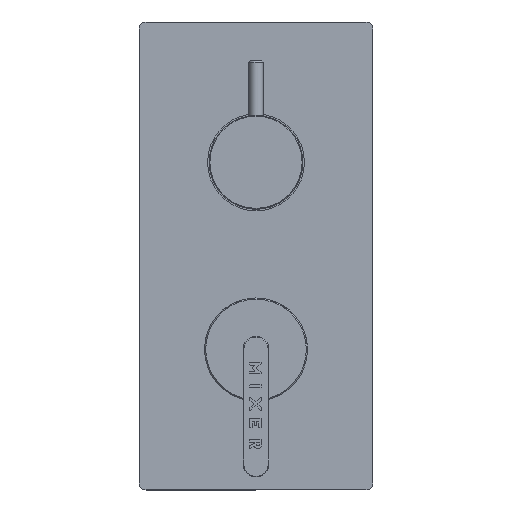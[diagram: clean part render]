
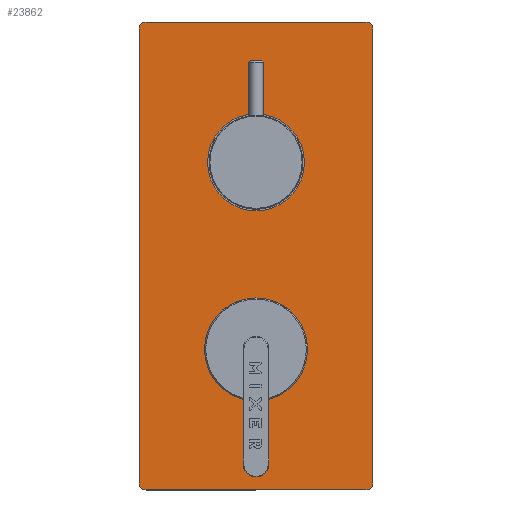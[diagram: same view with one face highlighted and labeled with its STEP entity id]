
A CAD part, top view. The second image highlights one B-rep face of the part: STEP entity #23862.
In plain terms, the highlighted planar face has unit normal (0, 0, 1).
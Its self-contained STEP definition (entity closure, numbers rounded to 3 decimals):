
#710 = ORIENTED_EDGE ( 'NONE', *, *, #996, .F. ) ;
#996 = EDGE_CURVE ( 'NONE', #26160, #25099, #26081, .T. ) ;
#1635 = AXIS2_PLACEMENT_3D ( 'NONE', #9597, #17341, #27597 ) ;
#1868 = ORIENTED_EDGE ( 'NONE', *, *, #24668, .T. ) ;
#2211 = DIRECTION ( 'NONE',  ( 1., 0., 0. ) ) ;
#2426 = CIRCLE ( 'NONE', #27200, 20.7 ) ;
#2579 = EDGE_CURVE ( 'NONE', #31843, #25653, #30731, .T. ) ;
#2898 = VECTOR ( 'NONE', #15499, 1000. ) ;
#2903 = CARTESIAN_POINT ( 'NONE',  ( 19.3, 0., 2. ) ) ;
#3195 = EDGE_CURVE ( 'NONE', #25099, #26160, #12964, .T. ) ;
#3305 = DIRECTION ( 'NONE',  ( 0., 0., 1. ) ) ;
#3683 = CIRCLE ( 'NONE', #21483, 20.7 ) ;
#4577 = DIRECTION ( 'NONE',  ( 0., -1., 0. ) ) ;
#4622 = LINE ( 'NONE', #15262, #17516 ) ;
#5070 = FACE_BOUND ( 'NONE', #32394, .T. ) ;
#5232 = EDGE_CURVE ( 'NONE', #25653, #23355, #14912, .T. ) ;
#5278 = DIRECTION ( 'NONE',  ( 0., 0., 1. ) ) ;
#5989 = ORIENTED_EDGE ( 'NONE', *, *, #7519, .F. ) ;
#6692 = EDGE_CURVE ( 'NONE', #13198, #18289, #8065, .T. ) ;
#7519 = EDGE_CURVE ( 'NONE', #31551, #14618, #2426, .T. ) ;
#8065 = LINE ( 'NONE', #18352, #2898 ) ;
#9003 = ORIENTED_EDGE ( 'NONE', *, *, #5232, .T. ) ;
#9486 = ORIENTED_EDGE ( 'NONE', *, *, #30402, .T. ) ;
#9527 = CARTESIAN_POINT ( 'NONE',  ( 100., -50., 2. ) ) ;
#9551 = DIRECTION ( 'NONE',  ( 0., 0., 1. ) ) ;
#9597 = CARTESIAN_POINT ( 'NONE',  ( -40., 0., 2. ) ) ;
#10041 = DIRECTION ( 'NONE',  ( 1., 0., 0. ) ) ;
#10162 = CARTESIAN_POINT ( 'NONE',  ( -97., 50., 2. ) ) ;
#10294 = DIRECTION ( 'NONE',  ( 0., 0., 1. ) ) ;
#10373 = CARTESIAN_POINT ( 'NONE',  ( -100., 47., 2. ) ) ;
#10660 = ORIENTED_EDGE ( 'NONE', *, *, #3195, .F. ) ;
#10675 = EDGE_LOOP ( 'NONE', ( #14611, #12482, #15917, #9486, #1868, #21677, #9003, #30055 ) ) ;
#10867 = CARTESIAN_POINT ( 'NONE',  ( 40., 0., 2. ) ) ;
#10910 = CARTESIAN_POINT ( 'NONE',  ( -100., -47., 2. ) ) ;
#10913 = CARTESIAN_POINT ( 'NONE',  ( 60.7, 0., 2. ) ) ;
#11102 = EDGE_CURVE ( 'NONE', #18289, #22577, #21300, .T. ) ;
#12482 = ORIENTED_EDGE ( 'NONE', *, *, #11102, .T. ) ;
#12624 = EDGE_LOOP ( 'NONE', ( #710, #10660 ) ) ;
#12690 = FACE_BOUND ( 'NONE', #12624, .T. ) ;
#12817 = CARTESIAN_POINT ( 'NONE',  ( -97., -47., 2. ) ) ;
#12964 = CIRCLE ( 'NONE', #1635, 20.7 ) ;
#13048 = DIRECTION ( 'NONE',  ( 0., 0., 1. ) ) ;
#13198 = VERTEX_POINT ( 'NONE', #27844 ) ;
#13354 = CARTESIAN_POINT ( 'NONE',  ( 97., 47., 2. ) ) ;
#13729 = AXIS2_PLACEMENT_3D ( 'NONE', #25508, #9551, #10041 ) ;
#14287 = CARTESIAN_POINT ( 'NONE',  ( -60.7, 0., 2. ) ) ;
#14611 = ORIENTED_EDGE ( 'NONE', *, *, #6692, .T. ) ;
#14618 = VERTEX_POINT ( 'NONE', #2903 ) ;
#14738 = DIRECTION ( 'NONE',  ( 0., 0., 1. ) ) ;
#14912 = LINE ( 'NONE', #9527, #32781 ) ;
#15016 = EDGE_CURVE ( 'NONE', #23355, #13198, #16079, .T. ) ;
#15262 = CARTESIAN_POINT ( 'NONE',  ( 100., -50., 2. ) ) ;
#15415 = DIRECTION ( 'NONE',  ( 1., 0., 0. ) ) ;
#15499 = DIRECTION ( 'NONE',  ( -1., 0., 0. ) ) ;
#15572 = CARTESIAN_POINT ( 'NONE',  ( -19.3, 0., 2. ) ) ;
#15917 = ORIENTED_EDGE ( 'NONE', *, *, #18941, .T. ) ;
#16079 = CIRCLE ( 'NONE', #19280, 3. ) ;
#16160 = DIRECTION ( 'NONE',  ( 1., 0., 0. ) ) ;
#17066 = ORIENTED_EDGE ( 'NONE', *, *, #28586, .F. ) ;
#17261 = LINE ( 'NONE', #30216, #28571 ) ;
#17277 = DIRECTION ( 'NONE',  ( 0., 1., 0. ) ) ;
#17341 = DIRECTION ( 'NONE',  ( 0., 0., 1. ) ) ;
#17516 = VECTOR ( 'NONE', #25509, 1000. ) ;
#18289 = VERTEX_POINT ( 'NONE', #10162 ) ;
#18352 = CARTESIAN_POINT ( 'NONE',  ( 100., 50., 2. ) ) ;
#18941 = EDGE_CURVE ( 'NONE', #22577, #28140, #17261, .T. ) ;
#19280 = AXIS2_PLACEMENT_3D ( 'NONE', #13354, #23764, #23604 ) ;
#20431 = CARTESIAN_POINT ( 'NONE',  ( 0., 0., 2. ) ) ;
#21242 = CARTESIAN_POINT ( 'NONE',  ( 100., -47., 2. ) ) ;
#21300 = CIRCLE ( 'NONE', #22896, 3. ) ;
#21483 = AXIS2_PLACEMENT_3D ( 'NONE', #29053, #5278, #26355 ) ;
#21677 = ORIENTED_EDGE ( 'NONE', *, *, #2579, .T. ) ;
#22577 = VERTEX_POINT ( 'NONE', #10373 ) ;
#22896 = AXIS2_PLACEMENT_3D ( 'NONE', #29265, #3305, #16160 ) ;
#22959 = FACE_OUTER_BOUND ( 'NONE', #10675, .T. ) ;
#23355 = VERTEX_POINT ( 'NONE', #28373 ) ;
#23604 = DIRECTION ( 'NONE',  ( 1., 0., 0. ) ) ;
#23764 = DIRECTION ( 'NONE',  ( 0., 0., 1. ) ) ;
#23787 = DIRECTION ( 'NONE',  ( 1., 0., 0. ) ) ;
#23862 = ADVANCED_FACE ( 'NONE', ( #12690, #22959, #5070 ), #33253, .T. ) ;
#24668 = EDGE_CURVE ( 'NONE', #25060, #31843, #4622, .T. ) ;
#25060 = VERTEX_POINT ( 'NONE', #28002 ) ;
#25099 = VERTEX_POINT ( 'NONE', #15572 ) ;
#25344 = AXIS2_PLACEMENT_3D ( 'NONE', #30062, #14738, #2211 ) ;
#25508 = CARTESIAN_POINT ( 'NONE',  ( -40., 0., 2. ) ) ;
#25509 = DIRECTION ( 'NONE',  ( 1., 0., 0. ) ) ;
#25653 = VERTEX_POINT ( 'NONE', #21242 ) ;
#26081 = CIRCLE ( 'NONE', #13729, 20.7 ) ;
#26160 = VERTEX_POINT ( 'NONE', #14287 ) ;
#26355 = DIRECTION ( 'NONE',  ( 1., 0., 0. ) ) ;
#27200 = AXIS2_PLACEMENT_3D ( 'NONE', #10867, #13048, #15415 ) ;
#27400 = AXIS2_PLACEMENT_3D ( 'NONE', #12817, #10294, #30669 ) ;
#27597 = DIRECTION ( 'NONE',  ( 1., 0., 0. ) ) ;
#27844 = CARTESIAN_POINT ( 'NONE',  ( 97., 50., 2. ) ) ;
#28002 = CARTESIAN_POINT ( 'NONE',  ( -97., -50., 2. ) ) ;
#28140 = VERTEX_POINT ( 'NONE', #10910 ) ;
#28373 = CARTESIAN_POINT ( 'NONE',  ( 100., 47., 2. ) ) ;
#28571 = VECTOR ( 'NONE', #4577, 1000. ) ;
#28586 = EDGE_CURVE ( 'NONE', #14618, #31551, #3683, .T. ) ;
#29053 = CARTESIAN_POINT ( 'NONE',  ( 40., 0., 2. ) ) ;
#29265 = CARTESIAN_POINT ( 'NONE',  ( -97., 47., 2. ) ) ;
#29822 = AXIS2_PLACEMENT_3D ( 'NONE', #20431, #30712, #23787 ) ;
#30055 = ORIENTED_EDGE ( 'NONE', *, *, #15016, .T. ) ;
#30062 = CARTESIAN_POINT ( 'NONE',  ( 97., -47., 2. ) ) ;
#30216 = CARTESIAN_POINT ( 'NONE',  ( -100., -50., 2. ) ) ;
#30402 = EDGE_CURVE ( 'NONE', #28140, #25060, #30636, .T. ) ;
#30636 = CIRCLE ( 'NONE', #27400, 3. ) ;
#30669 = DIRECTION ( 'NONE',  ( 1., 0., 0. ) ) ;
#30701 = CARTESIAN_POINT ( 'NONE',  ( 97., -50., 2. ) ) ;
#30712 = DIRECTION ( 'NONE',  ( 0., 0., 1. ) ) ;
#30731 = CIRCLE ( 'NONE', #25344, 3. ) ;
#31551 = VERTEX_POINT ( 'NONE', #10913 ) ;
#31843 = VERTEX_POINT ( 'NONE', #30701 ) ;
#32394 = EDGE_LOOP ( 'NONE', ( #17066, #5989 ) ) ;
#32781 = VECTOR ( 'NONE', #17277, 1000. ) ;
#33253 = PLANE ( 'NONE',  #29822 ) ;
